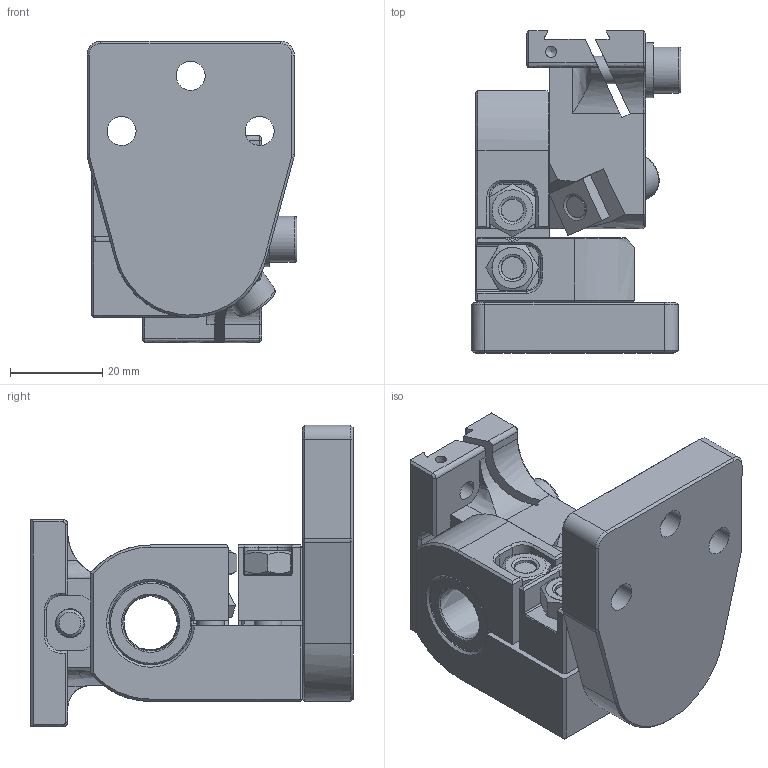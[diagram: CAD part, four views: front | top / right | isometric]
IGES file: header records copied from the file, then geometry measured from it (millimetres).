
Global section: file name: 153-01181_MG 3A_NEU; native system: Autodesk Inventor 2018; preprocessor: unknown; author: ss; date: 20190918.094027; units: millimetre
Bounding box: 45.6 x 70 x 65.5 mm (x, y, z)
Volume: 69454.9 mm3; surface area: 33367 mm2
Topology: 12 solids, 12 shells, 424 faces, 1104 edges, 710 vertices
Faces by surface type: bspline 424
